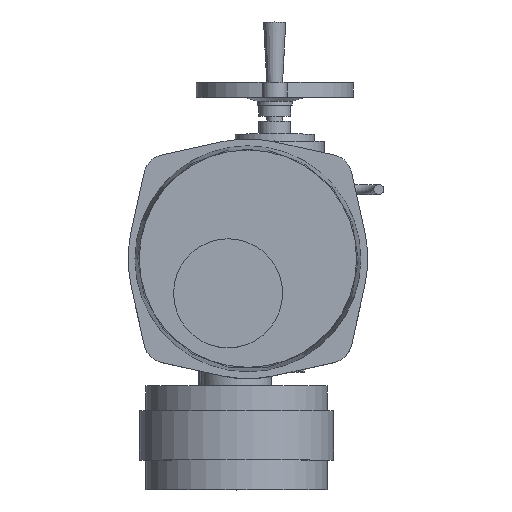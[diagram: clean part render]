
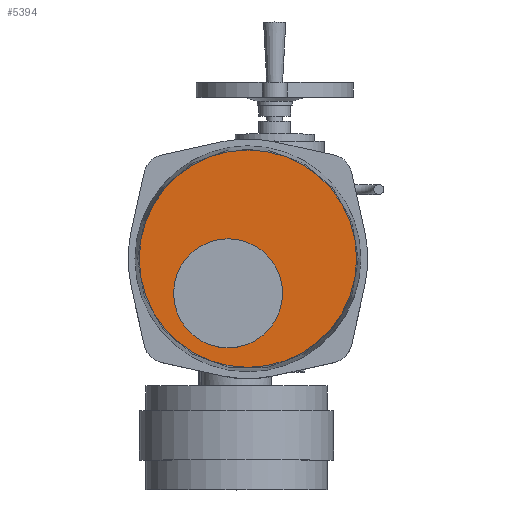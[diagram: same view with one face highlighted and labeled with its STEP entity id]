
A CAD part, top view. The second image highlights one B-rep face of the part: STEP entity #5394.
In plain terms, the highlighted planar face has unit normal (0, 0, 1).
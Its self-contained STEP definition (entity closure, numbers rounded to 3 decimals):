
#5394=ADVANCED_FACE('',(#11871,#11873),#11875,.T.);
#11871=FACE_BOUND('',#11872,.T.);
#11872=EDGE_LOOP('',(#16541));
#11873=FACE_BOUND('',#11874,.T.);
#11874=EDGE_LOOP('',(#16542));
#11875=PLANE('',#11876);
#11876=AXIS2_PLACEMENT_3D('',#11877,#11878,#11879);
#11877=CARTESIAN_POINT('',(20.,38.,519.));
#11878=DIRECTION('',(0.,0.,1.));
#11879=DIRECTION('',(-1.,0.,0.));
#16541=ORIENTED_EDGE('',*,*,#18988,.T.);
#16542=ORIENTED_EDGE('',*,*,#19955,.F.);
#18988=EDGE_CURVE('',#21960,#21960,#21961,.T.);
#19955=EDGE_CURVE('',#23410,#23410,#23411,.T.);
#21960=VERTEX_POINT('',#28790);
#21961=CIRCLE('',#28791,109.703);
#23410=VERTEX_POINT('',#32565);
#23411=CIRCLE('',#32566,55.);
#28790=CARTESIAN_POINT('',(-89.703,38.,519.));
#28791=AXIS2_PLACEMENT_3D('',#28792,#28793,#28794);
#28792=CARTESIAN_POINT('',(20.,38.,519.));
#28793=DIRECTION('',(0.,0.,1.));
#28794=DIRECTION('',(-1.,0.,0.));
#32565=CARTESIAN_POINT('',(-55.,3.,519.));
#32566=AXIS2_PLACEMENT_3D('',#32567,#32568,#32569);
#32567=CARTESIAN_POINT('',(0.,3.,519.));
#32568=DIRECTION('',(0.,0.,1.));
#32569=DIRECTION('',(-1.,0.,0.));
